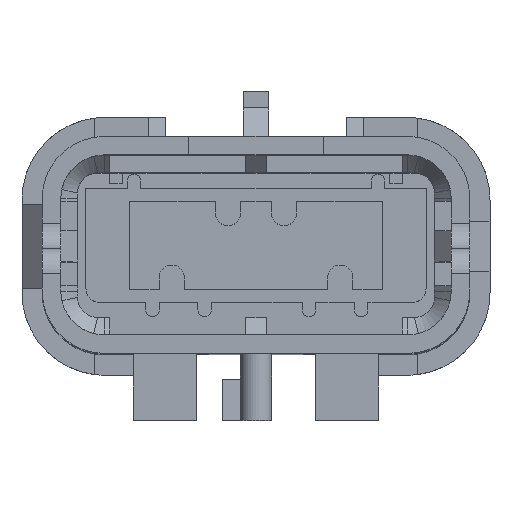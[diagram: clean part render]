
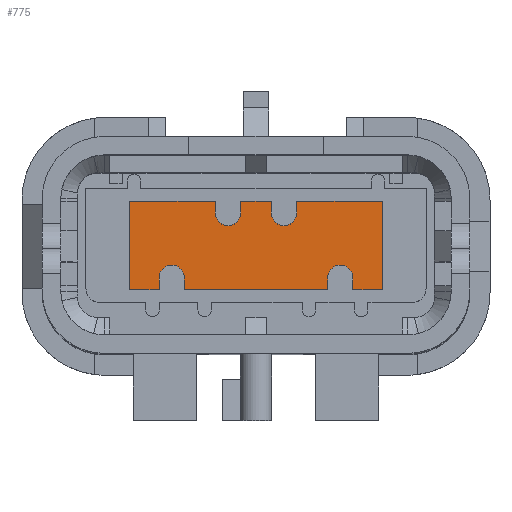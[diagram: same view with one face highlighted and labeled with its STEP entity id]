
A CAD part, top view. The second image highlights one B-rep face of the part: STEP entity #775.
In plain terms, the highlighted planar face has unit normal (0, 0, 1).
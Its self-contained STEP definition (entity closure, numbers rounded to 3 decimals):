
#390=CIRCLE('',#9185,0.75);
#392=CIRCLE('',#9193,0.75);
#394=CIRCLE('',#9199,0.75);
#396=CIRCLE('',#9207,0.75);
#775=ADVANCED_FACE('',(#1546),#1149,.T.);
#1149=PLANE('',#9243);
#1546=FACE_OUTER_BOUND('',#1996,.T.);
#1996=EDGE_LOOP('',(#3923,#3924,#3925,#3926,#3927,#3928,#3929,#3930,#3931,
#3932,#3933,#3934,#3935,#3936,#3937,#3938,#3939,#3940,#3941,#3942));
#3923=ORIENTED_EDGE('',*,*,#6339,.T.);
#3924=ORIENTED_EDGE('',*,*,#6341,.T.);
#3925=ORIENTED_EDGE('',*,*,#6346,.T.);
#3926=ORIENTED_EDGE('',*,*,#6349,.F.);
#3927=ORIENTED_EDGE('',*,*,#6352,.F.);
#3928=ORIENTED_EDGE('',*,*,#6355,.T.);
#3929=ORIENTED_EDGE('',*,*,#6358,.T.);
#3930=ORIENTED_EDGE('',*,*,#6361,.F.);
#3931=ORIENTED_EDGE('',*,*,#6364,.F.);
#3932=ORIENTED_EDGE('',*,*,#6367,.T.);
#3933=ORIENTED_EDGE('',*,*,#6368,.T.);
#3934=ORIENTED_EDGE('',*,*,#6371,.F.);
#3935=ORIENTED_EDGE('',*,*,#6376,.T.);
#3936=ORIENTED_EDGE('',*,*,#6379,.F.);
#3937=ORIENTED_EDGE('',*,*,#6381,.F.);
#3938=ORIENTED_EDGE('',*,*,#6324,.F.);
#3939=ORIENTED_EDGE('',*,*,#6328,.T.);
#3940=ORIENTED_EDGE('',*,*,#6331,.F.);
#3941=ORIENTED_EDGE('',*,*,#6334,.F.);
#3942=ORIENTED_EDGE('',*,*,#6337,.F.);
#5233=VERTEX_POINT('',#14112);
#5234=VERTEX_POINT('',#14114);
#5236=VERTEX_POINT('',#14120);
#5238=VERTEX_POINT('',#14126);
#5240=VERTEX_POINT('',#14132);
#5242=VERTEX_POINT('',#14138);
#5243=VERTEX_POINT('',#14142);
#5245=VERTEX_POINT('',#14148);
#5248=VERTEX_POINT('',#14156);
#5250=VERTEX_POINT('',#14162);
#5252=VERTEX_POINT('',#14168);
#5254=VERTEX_POINT('',#14174);
#5256=VERTEX_POINT('',#14180);
#5258=VERTEX_POINT('',#14186);
#5260=VERTEX_POINT('',#14192);
#5262=VERTEX_POINT('',#14198);
#5263=VERTEX_POINT('',#14202);
#5265=VERTEX_POINT('',#14208);
#5268=VERTEX_POINT('',#14216);
#5270=VERTEX_POINT('',#14222);
#6324=EDGE_CURVE('',#5233,#5234,#7450,.T.);
#6328=EDGE_CURVE('',#5233,#5236,#7454,.T.);
#6331=EDGE_CURVE('',#5238,#5236,#390,.T.);
#6334=EDGE_CURVE('',#5240,#5238,#7458,.T.);
#6337=EDGE_CURVE('',#5242,#5240,#7461,.T.);
#6339=EDGE_CURVE('',#5242,#5243,#7463,.T.);
#6341=EDGE_CURVE('',#5243,#5245,#7465,.T.);
#6346=EDGE_CURVE('',#5245,#5248,#7470,.T.);
#6349=EDGE_CURVE('',#5250,#5248,#392,.T.);
#6352=EDGE_CURVE('',#5252,#5250,#7474,.T.);
#6355=EDGE_CURVE('',#5252,#5254,#7477,.T.);
#6358=EDGE_CURVE('',#5254,#5256,#7480,.T.);
#6361=EDGE_CURVE('',#5258,#5256,#394,.T.);
#6364=EDGE_CURVE('',#5260,#5258,#7484,.T.);
#6367=EDGE_CURVE('',#5260,#5262,#7487,.T.);
#6368=EDGE_CURVE('',#5262,#5263,#7488,.T.);
#6371=EDGE_CURVE('',#5265,#5263,#7491,.T.);
#6376=EDGE_CURVE('',#5265,#5268,#7496,.T.);
#6379=EDGE_CURVE('',#5270,#5268,#396,.T.);
#6381=EDGE_CURVE('',#5234,#5270,#7499,.T.);
#7450=LINE('',#14113,#8479);
#7454=LINE('',#14121,#8483);
#7458=LINE('',#14133,#8487);
#7461=LINE('',#14139,#8490);
#7463=LINE('',#14144,#8492);
#7465=LINE('',#14147,#8494);
#7470=LINE('',#14157,#8499);
#7474=LINE('',#14169,#8503);
#7477=LINE('',#14175,#8506);
#7480=LINE('',#14181,#8509);
#7484=LINE('',#14193,#8513);
#7487=LINE('',#14199,#8516);
#7488=LINE('',#14201,#8517);
#7491=LINE('',#14207,#8520);
#7496=LINE('',#14217,#8525);
#7499=LINE('',#14226,#8528);
#8479=VECTOR('',#10902,1.);
#8483=VECTOR('',#10908,1.);
#8487=VECTOR('',#10920,1.);
#8490=VECTOR('',#10925,1.);
#8492=VECTOR('',#10929,1.);
#8494=VECTOR('',#10933,1.);
#8499=VECTOR('',#10940,1.);
#8503=VECTOR('',#10952,1.);
#8506=VECTOR('',#10957,1.);
#8509=VECTOR('',#10962,1.);
#8513=VECTOR('',#10974,1.);
#8516=VECTOR('',#10979,1.);
#8517=VECTOR('',#10982,1.);
#8520=VECTOR('',#10987,1.);
#8525=VECTOR('',#10994,1.);
#8528=VECTOR('',#11005,1.);
#9185=AXIS2_PLACEMENT_3D('',#14127,#10914,#10915);
#9193=AXIS2_PLACEMENT_3D('',#14163,#10946,#10947);
#9199=AXIS2_PLACEMENT_3D('',#14187,#10968,#10969);
#9207=AXIS2_PLACEMENT_3D('',#14223,#11000,#11001);
#9243=AXIS2_PLACEMENT_3D('',#14305,#11104,#11105);
#10902=DIRECTION('',(-1.,0.,0.));
#10908=DIRECTION('',(0.,1.,0.));
#10914=DIRECTION('',(0.,0.,1.));
#10915=DIRECTION('',(1.,0.,0.));
#10920=DIRECTION('',(0.,1.,0.));
#10925=DIRECTION('',(-1.,0.,0.));
#10929=DIRECTION('',(0.,1.,0.));
#10933=DIRECTION('',(-1.,0.,0.));
#10940=DIRECTION('',(0.,-1.,0.));
#10946=DIRECTION('',(0.,0.,1.));
#10947=DIRECTION('',(-1.,0.,0.));
#10952=DIRECTION('',(0.,-1.,0.));
#10957=DIRECTION('',(-1.,0.,0.));
#10962=DIRECTION('',(0.,-1.,0.));
#10968=DIRECTION('',(0.,0.,1.));
#10969=DIRECTION('',(-1.,0.,0.));
#10974=DIRECTION('',(0.,-1.,0.));
#10979=DIRECTION('',(-1.,0.,0.));
#10982=DIRECTION('',(0.,-1.,0.));
#10987=DIRECTION('',(-1.,0.,0.));
#10994=DIRECTION('',(0.,1.,0.));
#11000=DIRECTION('',(0.,0.,1.));
#11001=DIRECTION('',(1.,0.,0.));
#11005=DIRECTION('',(0.,1.,0.));
#11104=DIRECTION('',(0.,0.,1.));
#11105=DIRECTION('',(1.,0.,0.));
#14112=CARTESIAN_POINT('',(4.25,-2.625,1.1));
#14113=CARTESIAN_POINT('',(4.25,-2.625,1.1));
#14114=CARTESIAN_POINT('',(-4.25,-2.625,1.1));
#14120=CARTESIAN_POINT('',(4.25,-1.925,1.1));
#14121=CARTESIAN_POINT('',(4.25,-2.625,1.1));
#14126=CARTESIAN_POINT('',(5.75,-1.925,1.1));
#14127=CARTESIAN_POINT('',(5.,-1.925,1.1));
#14132=CARTESIAN_POINT('',(5.75,-2.625,1.1));
#14133=CARTESIAN_POINT('',(5.75,-2.625,1.1));
#14138=CARTESIAN_POINT('',(7.51,-2.625,1.1));
#14139=CARTESIAN_POINT('',(7.51,-2.625,1.1));
#14142=CARTESIAN_POINT('',(7.51,2.625,1.1));
#14144=CARTESIAN_POINT('',(7.51,-2.625,1.1));
#14147=CARTESIAN_POINT('',(7.51,2.625,1.1));
#14148=CARTESIAN_POINT('',(2.415,2.625,1.1));
#14156=CARTESIAN_POINT('',(2.415,1.925,1.1));
#14157=CARTESIAN_POINT('',(2.415,2.625,1.1));
#14162=CARTESIAN_POINT('',(0.915,1.925,1.1));
#14163=CARTESIAN_POINT('',(1.665,1.925,1.1));
#14168=CARTESIAN_POINT('',(0.915,2.625,1.1));
#14169=CARTESIAN_POINT('',(0.915,2.625,1.1));
#14174=CARTESIAN_POINT('',(-0.915,2.625,1.1));
#14175=CARTESIAN_POINT('',(0.915,2.625,1.1));
#14180=CARTESIAN_POINT('',(-0.915,1.925,1.1));
#14181=CARTESIAN_POINT('',(-0.915,2.625,1.1));
#14186=CARTESIAN_POINT('',(-2.415,1.925,1.1));
#14187=CARTESIAN_POINT('',(-1.665,1.925,1.1));
#14192=CARTESIAN_POINT('',(-2.415,2.625,1.1));
#14193=CARTESIAN_POINT('',(-2.415,2.625,1.1));
#14198=CARTESIAN_POINT('',(-7.51,2.625,1.1));
#14199=CARTESIAN_POINT('',(-2.415,2.625,1.1));
#14201=CARTESIAN_POINT('',(-7.51,-0.5,1.1));
#14202=CARTESIAN_POINT('',(-7.51,-2.625,1.1));
#14207=CARTESIAN_POINT('',(-5.75,-2.625,1.1));
#14208=CARTESIAN_POINT('',(-5.75,-2.625,1.1));
#14216=CARTESIAN_POINT('',(-5.75,-1.925,1.1));
#14217=CARTESIAN_POINT('',(-5.75,-2.625,1.1));
#14222=CARTESIAN_POINT('',(-4.25,-1.925,1.1));
#14223=CARTESIAN_POINT('',(-5.,-1.925,1.1));
#14226=CARTESIAN_POINT('',(-4.25,-2.625,1.1));
#14305=CARTESIAN_POINT('',(-9.012,-3.15,1.1));
